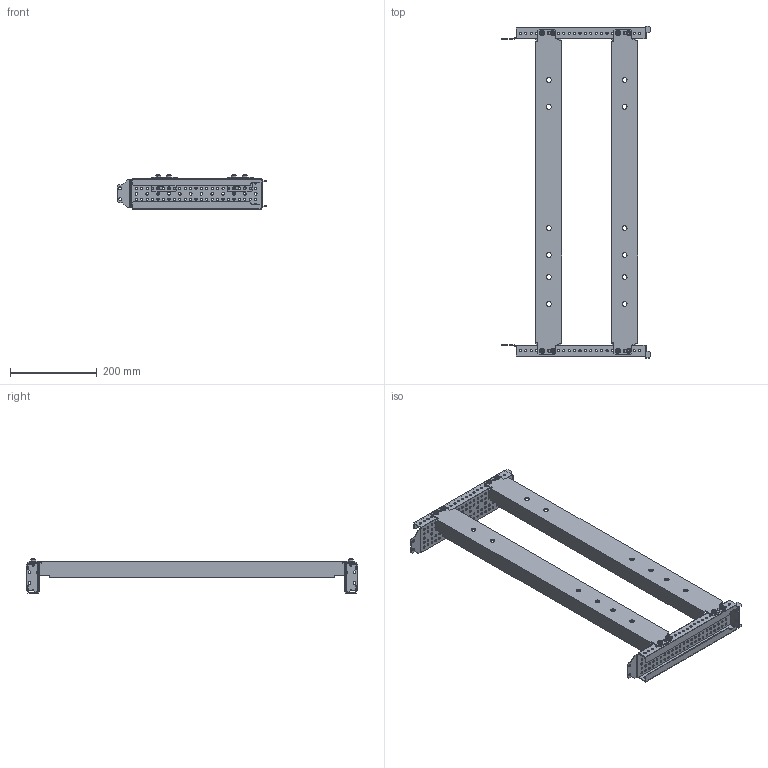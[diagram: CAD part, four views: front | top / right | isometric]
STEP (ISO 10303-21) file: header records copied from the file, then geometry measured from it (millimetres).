
FILE_DESCRIPTION (( 'STEP AP214' ), '1' );
FILE_NAME ('FO-00-EF-060-080 Êîìïëåêò óñòàíîâî÷íûé ARMAT ACB òèïîðàçìåð EIIF 3II4P 600õ800.STEP', '2025-07-15T11:27:49', ( '' ), ( '' ), 'SwSTEP 2.0', 'SolidWorks 2023', '' );
FILE_SCHEMA (( 'AUTOMOTIVE_DESIGN' ));
Length unit declared in the file: millimetre
Products named in the file (4): Screw_DIN_7500_M6x10_Torx_T30; Траверса поперечная для Armat ABC_E-F в шкаф 800 мм; FO-00-EF-060-080 Комплект установочный ARMAT ACB типоразмер EIIF 3II4P 600х800; Траверса возд. выключателя по глубине
Assembly tree (20 placements, depth 2):
  FO-00-EF-060-080 Комплект установочный ARMAT ACB типоразмер EIIF 3II4P 600х800
    Траверса поперечная для Armat ABC_E-F в шкаф 800 мм  x2
    Траверса возд. выключателя по глубине  x2
    Screw_DIN_7500_M6x10_Torx_T30  x16
Bounding box: 344.49 x 766 x 79 mm (x, y, z)
Volume: 728707.8 mm3; surface area: 575699.9 mm2
Topology: 20 solids, 20 shells, 1480 faces, 4096 edges, 2688 vertices
Faces by surface type: cylinder 992, plane 358, cone 64, torus 64, bspline 2
Entity records: 18734 total; most frequent: DIRECTION 3362, CARTESIAN_POINT 3166, ORIENTED_EDGE 3074, EDGE_CURVE 1537, AXIS2_PLACEMENT_3D 1283, VERTEX_POINT 1022, EDGE_LOOP 865, VECTOR 796
